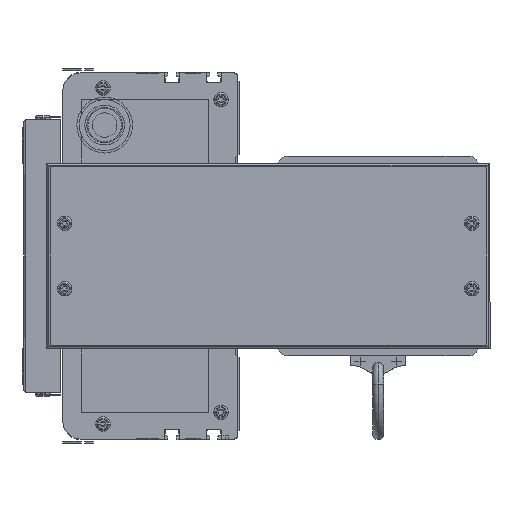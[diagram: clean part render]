
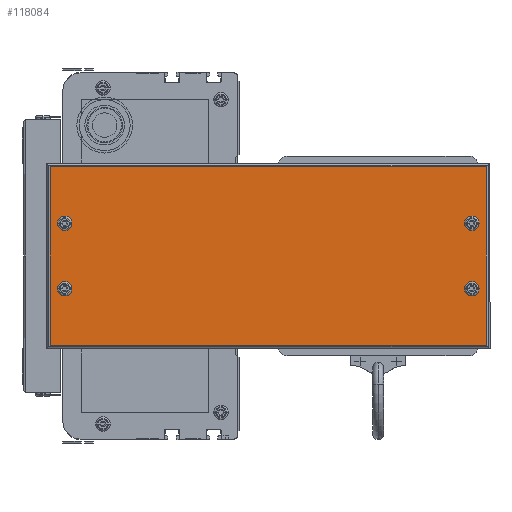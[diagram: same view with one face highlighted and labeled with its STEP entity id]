
A CAD part, left-side view. The second image highlights one B-rep face of the part: STEP entity #118084.
In plain terms, the highlighted planar face has unit normal (-1, 0, 0) as drawn and (1, 0, 0) by its records, which use the part's own axes.
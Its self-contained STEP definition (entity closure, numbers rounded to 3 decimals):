
#45764 = DIRECTION ( 'NONE',  ( 0., 0., -1. ) ) ;
#45765 = DIRECTION ( 'NONE',  ( 1., 0., 0. ) ) ;
#45767 = CARTESIAN_POINT ( 'NONE',  ( 50., 10., -69. ) ) ;
#45769 = AXIS2_PLACEMENT_3D ( 'NONE', #45767, #45765, #45764 ) ;
#45770 = CIRCLE ( 'NONE', #45769, 2.5 ) ;
#46435 = AXIS2_PLACEMENT_3D ( 'NONE', #46458, #46444, #46443 ) ;
#46443 = DIRECTION ( 'NONE',  ( 0., 0., -1. ) ) ;
#46444 = DIRECTION ( 'NONE',  ( 1., 0., 0. ) ) ;
#46458 = CARTESIAN_POINT ( 'NONE',  ( 50., 234., -33. ) ) ;
#46466 = CIRCLE ( 'NONE', #46435, 2.5 ) ;
#46671 = CARTESIAN_POINT ( 'NONE',  ( 50., 10., -71.5 ) ) ;
#46676 = CARTESIAN_POINT ( 'NONE',  ( 50., 242., -2. ) ) ;
#46681 = CARTESIAN_POINT ( 'NONE',  ( 50., 242., -100. ) ) ;
#46781 = CIRCLE ( 'NONE', #46865, 2.5 ) ;
#46840 = DIRECTION ( 'NONE',  ( 0., 0., -1. ) ) ;
#46841 = DIRECTION ( 'NONE',  ( 1., 0., 0. ) ) ;
#46843 = AXIS2_PLACEMENT_3D ( 'NONE', #46957, #46956, #46955 ) ;
#46849 = CIRCLE ( 'NONE', #46858, 2.5 ) ;
#46852 = DIRECTION ( 'NONE',  ( 0., 0., -1. ) ) ;
#46853 = DIRECTION ( 'NONE',  ( 1., 0., 0. ) ) ;
#46855 = CARTESIAN_POINT ( 'NONE',  ( 50., 10., -69. ) ) ;
#46856 = CIRCLE ( 'NONE', #46843, 2.5 ) ;
#46857 = CARTESIAN_POINT ( 'NONE',  ( 50., 10., -33. ) ) ;
#46858 = AXIS2_PLACEMENT_3D ( 'NONE', #46857, #46841, #46840 ) ;
#46860 = DIRECTION ( 'NONE',  ( 0., 0., 1. ) ) ;
#46862 = VECTOR ( 'NONE', #46860, 1000. ) ;
#46863 = CARTESIAN_POINT ( 'NONE',  ( 50., 242., 0. ) ) ;
#46864 = LINE ( 'NONE', #46863, #46862 ) ;
#46865 = AXIS2_PLACEMENT_3D ( 'NONE', #46855, #46853, #46852 ) ;
#46878 = CARTESIAN_POINT ( 'NONE',  ( 50., 234., -69. ) ) ;
#46944 = DIRECTION ( 'NONE',  ( 0., 0., -1. ) ) ;
#46946 = DIRECTION ( 'NONE',  ( 1., 0., 0. ) ) ;
#46947 = AXIS2_PLACEMENT_3D ( 'NONE', #46878, #46946, #46944 ) ;
#46955 = DIRECTION ( 'NONE',  ( 0., 0., -1. ) ) ;
#46956 = DIRECTION ( 'NONE',  ( 1., 0., 0. ) ) ;
#46957 = CARTESIAN_POINT ( 'NONE',  ( 50., 234., -33. ) ) ;
#46961 = CIRCLE ( 'NONE', #46947, 2.5 ) ;
#47082 = CARTESIAN_POINT ( 'NONE',  ( 50., 2., -100. ) ) ;
#47087 = CARTESIAN_POINT ( 'NONE',  ( 50., 10., -66.5 ) ) ;
#47111 = DIRECTION ( 'NONE',  ( 0., -1., 0. ) ) ;
#47112 = CARTESIAN_POINT ( 'NONE',  ( 50., 244., -2. ) ) ;
#47154 = DIRECTION ( 'NONE',  ( 0., 1., 0. ) ) ;
#47155 = VECTOR ( 'NONE', #47154, 1000. ) ;
#47159 = CARTESIAN_POINT ( 'NONE',  ( 50., 244., -100. ) ) ;
#47164 = LINE ( 'NONE', #47159, #47155 ) ;
#47168 = DIRECTION ( 'NONE',  ( 0., 0., -1. ) ) ;
#47169 = VECTOR ( 'NONE', #47168, 1000. ) ;
#47174 = CARTESIAN_POINT ( 'NONE',  ( 50., 2., 0. ) ) ;
#47175 = LINE ( 'NONE', #47174, #47169 ) ;
#47177 = VECTOR ( 'NONE', #47111, 1000. ) ;
#47185 = LINE ( 'NONE', #47112, #47177 ) ;
#47368 = CIRCLE ( 'NONE', #47476, 2.5 ) ;
#47381 = CARTESIAN_POINT ( 'NONE',  ( 50., 234., -71.5 ) ) ;
#47401 = CARTESIAN_POINT ( 'NONE',  ( 50., 10., -30.5 ) ) ;
#47403 = CARTESIAN_POINT ( 'NONE',  ( 50., 10., -35.5 ) ) ;
#47471 = DIRECTION ( 'NONE',  ( 0., 0., -1. ) ) ;
#47472 = DIRECTION ( 'NONE',  ( 1., 0., 0. ) ) ;
#47474 = CARTESIAN_POINT ( 'NONE',  ( 50., 10., -33. ) ) ;
#47476 = AXIS2_PLACEMENT_3D ( 'NONE', #47474, #47472, #47471 ) ;
#117593 = EDGE_CURVE ( 'NONE', #117975, #117847, #45770, .T. ) ;
#117833 = ORIENTED_EDGE ( 'NONE', *, *, #117979, .T. ) ;
#117835 = VERTEX_POINT ( 'NONE', #46681 ) ;
#117837 = EDGE_LOOP ( 'NONE', ( #117900, #117910 ) ) ;
#117838 = VERTEX_POINT ( 'NONE', #46676 ) ;
#117841 = EDGE_LOOP ( 'NONE', ( #117976, #118085, #117833, #117898 ) ) ;
#117847 = VERTEX_POINT ( 'NONE', #46671 ) ;
#117896 = EDGE_CURVE ( 'NONE', #117835, #117838, #46864, .T. ) ;
#117897 = EDGE_CURVE ( 'NONE', #117847, #117975, #46781, .T. ) ;
#117898 = ORIENTED_EDGE ( 'NONE', *, *, #117896, .T. ) ;
#117899 = ORIENTED_EDGE ( 'NONE', *, *, #117897, .F. ) ;
#117900 = ORIENTED_EDGE ( 'NONE', *, *, #117909, .F. ) ;
#117901 = ORIENTED_EDGE ( 'NONE', *, *, #117593, .F. ) ;
#117902 = EDGE_CURVE ( 'NONE', #118039, #118037, #46849, .T. ) ;
#117903 = ORIENTED_EDGE ( 'NONE', *, *, #117902, .F. ) ;
#117907 = EDGE_CURVE ( 'NONE', #118080, #118082, #46856, .T. ) ;
#117908 = ORIENTED_EDGE ( 'NONE', *, *, #118041, .F. ) ;
#117909 = EDGE_CURVE ( 'NONE', #118034, #118088, #46961, .T. ) ;
#117910 = ORIENTED_EDGE ( 'NONE', *, *, #118087, .F. ) ;
#117916 = EDGE_LOOP ( 'NONE', ( #117918, #117981 ) ) ;
#117918 = ORIENTED_EDGE ( 'NONE', *, *, #117907, .F. ) ;
#117975 = VERTEX_POINT ( 'NONE', #47087 ) ;
#117976 = ORIENTED_EDGE ( 'NONE', *, *, #117977, .T. ) ;
#117977 = EDGE_CURVE ( 'NONE', #117838, #118083, #47185, .T. ) ;
#117978 = EDGE_CURVE ( 'NONE', #118083, #117982, #47175, .T. ) ;
#117979 = EDGE_CURVE ( 'NONE', #117982, #117835, #47164, .T. ) ;
#117980 = EDGE_LOOP ( 'NONE', ( #117903, #117908 ) ) ;
#117981 = ORIENTED_EDGE ( 'NONE', *, *, #118075, .F. ) ;
#117982 = VERTEX_POINT ( 'NONE', #47082 ) ;
#118034 = VERTEX_POINT ( 'NONE', #47381 ) ;
#118037 = VERTEX_POINT ( 'NONE', #47401 ) ;
#118039 = VERTEX_POINT ( 'NONE', #47403 ) ;
#118041 = EDGE_CURVE ( 'NONE', #118037, #118039, #47368, .T. ) ;
#118072 = EDGE_LOOP ( 'NONE', ( #117899, #117901 ) ) ;
#118075 = EDGE_CURVE ( 'NONE', #118082, #118080, #46466, .T. ) ;
#118080 = VERTEX_POINT ( 'NONE', #146753 ) ;
#118082 = VERTEX_POINT ( 'NONE', #146752 ) ;
#118083 = VERTEX_POINT ( 'NONE', #146751 ) ;
#118084 = ADVANCED_FACE ( 'NONE', ( #146741, #146744, #146749, #146754, #146743 ), #146750, .F. ) ;
#118085 = ORIENTED_EDGE ( 'NONE', *, *, #117978, .T. ) ;
#118087 = EDGE_CURVE ( 'NONE', #118088, #118034, #146735, .T. ) ;
#118088 = VERTEX_POINT ( 'NONE', #146742 ) ;
#146731 = DIRECTION ( 'NONE',  ( 0., 0., -1. ) ) ;
#146732 = DIRECTION ( 'NONE',  ( 1., 0., 0. ) ) ;
#146733 = CARTESIAN_POINT ( 'NONE',  ( 50., 234., -69. ) ) ;
#146734 = AXIS2_PLACEMENT_3D ( 'NONE', #146733, #146732, #146731 ) ;
#146735 = CIRCLE ( 'NONE', #146734, 2.5 ) ;
#146736 = DIRECTION ( 'NONE',  ( 0., 0., 1. ) ) ;
#146737 = DIRECTION ( 'NONE',  ( -1., 0., 0. ) ) ;
#146738 = CARTESIAN_POINT ( 'NONE',  ( 50., 244., 0. ) ) ;
#146739 = AXIS2_PLACEMENT_3D ( 'NONE', #146738, #146737, #146736 ) ;
#146741 = FACE_OUTER_BOUND ( 'NONE', #117841, .T. ) ;
#146742 = CARTESIAN_POINT ( 'NONE',  ( 50., 234., -66.5 ) ) ;
#146743 = FACE_BOUND ( 'NONE', #117916, .T. ) ;
#146744 = FACE_BOUND ( 'NONE', #118072, .T. ) ;
#146749 = FACE_BOUND ( 'NONE', #117980, .T. ) ;
#146750 = PLANE ( 'NONE',  #146739 ) ;
#146751 = CARTESIAN_POINT ( 'NONE',  ( 50., 2., -2. ) ) ;
#146752 = CARTESIAN_POINT ( 'NONE',  ( 50., 234., -30.5 ) ) ;
#146753 = CARTESIAN_POINT ( 'NONE',  ( 50., 234., -35.5 ) ) ;
#146754 = FACE_BOUND ( 'NONE', #117837, .T. ) ;
